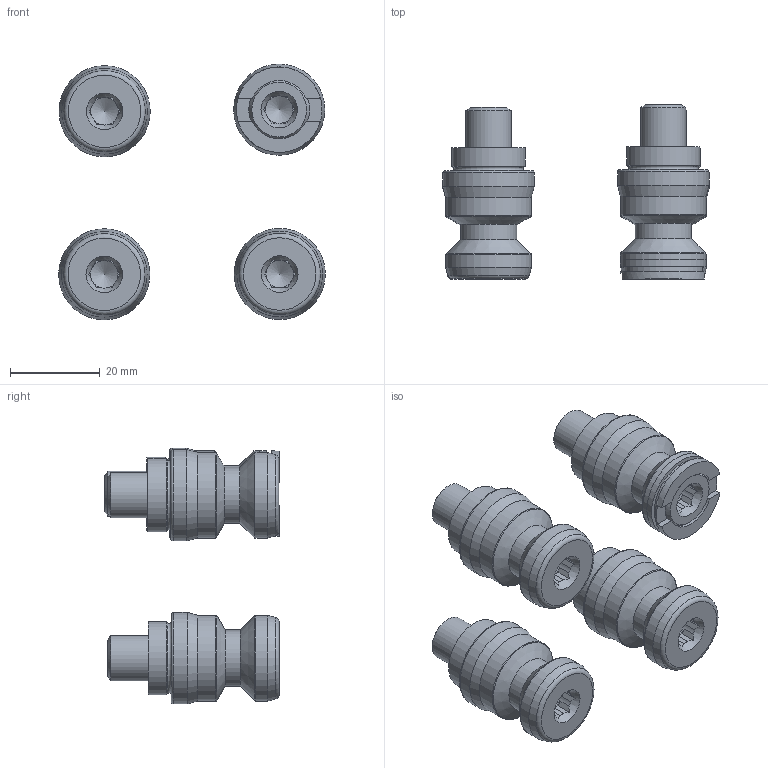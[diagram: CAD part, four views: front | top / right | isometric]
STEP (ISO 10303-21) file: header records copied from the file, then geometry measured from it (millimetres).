
FILE_DESCRIPTION (( 'STEP AP214' ), '1' );
FILE_NAME ('PS20F-4PY_WEBSITE.step', '2025-08-11T12:22:29', ( '' ), ( '' ), 'SwSTEP 2.0', 'SolidWorks 2025', '' );
FILE_SCHEMA (( 'AUTOMOTIVE_DESIGN' ));
Length unit declared in the file: millimetre
Products named in the file (6): D_39874.CPSS_WEBSITE_91390A162; D_RL96-PY_WEBSITE; PS20F-4PY_WEBSITE; D_PS20F-1_WEBSITE_HARD TURN; D_PS20F-PY_WEBSITE; D_PS20F-PY-1_WEBSITE_HARD TURN
Assembly tree (10 placements, depth 3):
  PS20F-4PY_WEBSITE
    D_PS20F-1_WEBSITE_HARD TURN  x3
    D_39874.CPSS_WEBSITE_91390A162  x3
    D_PS20F-PY_WEBSITE
      D_PS20F-PY-1_WEBSITE_HARD TURN
      D_39874.CPSS_WEBSITE_91390A162
      D_RL96-PY_WEBSITE
Bounding box: 59.29 x 38.79 x 56.89 mm (x, y, z)
Volume: 29803.5 mm3; surface area: 15688.9 mm2
Topology: 9 solids, 9 shells, 290 faces, 659 edges, 393 vertices
Faces by surface type: plane 152, cone 77, cylinder 41, torus 20
Full cylindrical faces by diameter (mm): 6.147 x4, 8.5 x4, 10 x8, 12.497 x4, 16.297 x4, 17.304 x1, 19.012 x10, 20.277 x4
Entity records: 4639 total; most frequent: CARTESIAN_POINT 756, DIRECTION 592, ORIENTED_EDGE 466, AXIS2_PLACEMENT_3D 249, EDGE_CURVE 233, EDGE_LOOP 190, VERTEX_POINT 169, FACE_OUTER_BOUND 160
